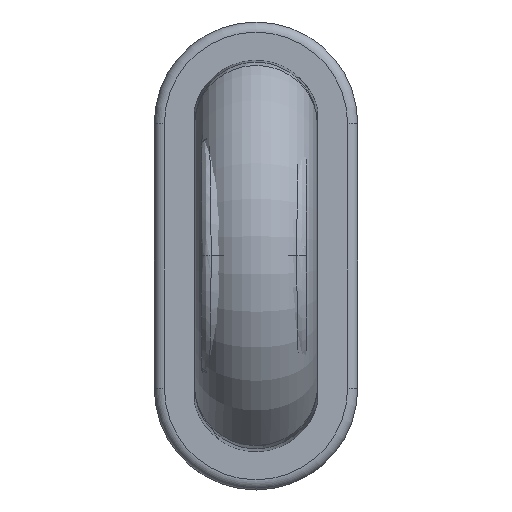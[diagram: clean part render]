
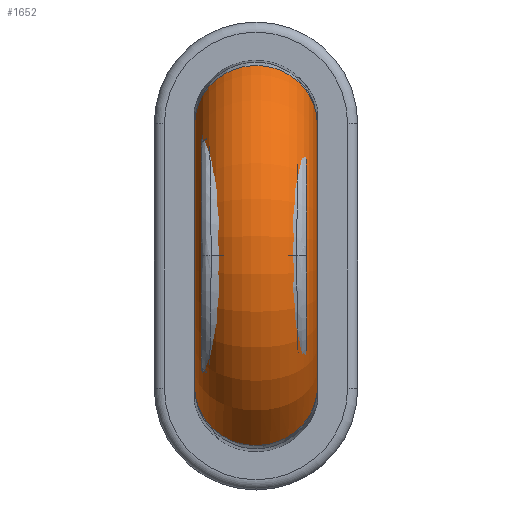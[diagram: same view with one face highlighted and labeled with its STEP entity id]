
A CAD part, top view. The second image highlights one B-rep face of the part: STEP entity #1652.
In plain terms, the highlighted toroidal (fillet/blend) face has major radius 8.2 mm and minor radius 3 mm.
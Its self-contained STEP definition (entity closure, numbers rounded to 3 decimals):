
#160=CARTESIAN_POINT('',(-23.5,13.457,149.014));
#314=CARTESIAN_POINT('',(-29.5,13.5,148.999));
#458=CARTESIAN_POINT('',(-29.5,13.457,149.014));
#459=CARTESIAN_POINT('',(-29.5,13.462,149.012));
#460=CARTESIAN_POINT('',(-29.5,13.471,149.009));
#461=CARTESIAN_POINT('',(-29.5,13.486,149.004));
#462=CARTESIAN_POINT('',(-29.5,13.495,149.001));
#463=CARTESIAN_POINT('',(-29.5,13.5,148.999));
#465=CARTESIAN_POINT('',(-29.5,20.,144.));
#466=DIRECTION('',(-1.,0.,0.));
#467=DIRECTION('',(0.,-0.793,0.61));
#468=AXIS2_PLACEMENT_3D('',#465,#466,#467);
#470=CARTESIAN_POINT('',(-29.5,26.5,148.999));
#471=CARTESIAN_POINT('',(-29.5,26.505,149.001));
#472=CARTESIAN_POINT('',(-29.5,26.514,149.004));
#473=CARTESIAN_POINT('',(-29.5,26.529,149.009));
#474=CARTESIAN_POINT('',(-29.5,26.538,149.012));
#475=CARTESIAN_POINT('',(-29.5,26.543,149.014));
#477=CARTESIAN_POINT('',(-23.5,26.543,149.014));
#478=CARTESIAN_POINT('',(-23.5,26.538,149.012));
#479=CARTESIAN_POINT('',(-23.5,26.529,149.009));
#480=CARTESIAN_POINT('',(-23.5,26.514,149.004));
#481=CARTESIAN_POINT('',(-23.5,26.505,149.001));
#482=CARTESIAN_POINT('',(-23.5,26.5,148.999));
#484=CARTESIAN_POINT('',(-23.5,20.,144.));
#485=DIRECTION('',(1.,0.,0.));
#486=DIRECTION('',(0.,0.793,0.61));
#487=AXIS2_PLACEMENT_3D('',#484,#485,#486);
#489=CARTESIAN_POINT('',(-23.5,13.5,148.999));
#490=CARTESIAN_POINT('',(-23.5,13.495,149.001));
#491=CARTESIAN_POINT('',(-23.5,13.486,149.004));
#492=CARTESIAN_POINT('',(-23.5,13.471,149.009));
#493=CARTESIAN_POINT('',(-23.5,13.462,149.012));
#494=CARTESIAN_POINT('',(-23.5,13.457,149.014));
#496=CARTESIAN_POINT('',(-29.5,13.457,149.014));
#497=CARTESIAN_POINT('',(-29.498,13.358,149.059));
#498=CARTESIAN_POINT('',(-29.484,13.162,149.149));
#499=CARTESIAN_POINT('',(-29.43,12.87,149.279));
#500=CARTESIAN_POINT('',(-29.343,12.586,149.403));
#501=CARTESIAN_POINT('',(-29.226,12.31,149.521));
#502=CARTESIAN_POINT('',(-29.078,12.048,149.631));
#503=CARTESIAN_POINT('',(-28.903,11.802,149.734));
#504=CARTESIAN_POINT('',(-28.703,11.573,149.826));
#505=CARTESIAN_POINT('',(-28.479,11.367,149.91));
#506=CARTESIAN_POINT('',(-28.235,11.185,149.983));
#507=CARTESIAN_POINT('',(-27.973,11.026,150.045));
#508=CARTESIAN_POINT('',(-27.695,10.895,150.097));
#509=CARTESIAN_POINT('',(-27.406,10.793,150.138));
#510=CARTESIAN_POINT('',(-27.11,10.718,150.165));
#511=CARTESIAN_POINT('',(-26.806,10.673,150.182));
#512=CARTESIAN_POINT('',(-26.5,10.659,150.189));
#513=CARTESIAN_POINT('',(-26.194,10.674,150.183));
#514=CARTESIAN_POINT('',(-25.89,10.718,150.165));
#515=CARTESIAN_POINT('',(-25.593,10.793,150.137));
#516=CARTESIAN_POINT('',(-25.305,10.896,150.098));
#517=CARTESIAN_POINT('',(-25.028,11.026,150.045));
#518=CARTESIAN_POINT('',(-24.765,11.184,149.983));
#519=CARTESIAN_POINT('',(-24.521,11.367,149.911));
#520=CARTESIAN_POINT('',(-24.298,11.573,149.827));
#521=CARTESIAN_POINT('',(-24.097,11.801,149.734));
#522=CARTESIAN_POINT('',(-23.922,12.048,149.632));
#523=CARTESIAN_POINT('',(-23.774,12.31,149.521));
#524=CARTESIAN_POINT('',(-23.657,12.585,149.403));
#525=CARTESIAN_POINT('',(-23.57,12.87,149.279));
#526=CARTESIAN_POINT('',(-23.516,13.162,149.149));
#527=CARTESIAN_POINT('',(-23.502,13.359,149.059));
#528=CARTESIAN_POINT('',(-23.5,13.457,149.014));
#530=CARTESIAN_POINT('',(-23.5,26.543,149.014));
#531=CARTESIAN_POINT('',(-23.502,26.642,149.059));
#532=CARTESIAN_POINT('',(-23.516,26.838,149.149));
#533=CARTESIAN_POINT('',(-23.57,27.13,149.279));
#534=CARTESIAN_POINT('',(-23.657,27.414,149.403));
#535=CARTESIAN_POINT('',(-23.774,27.69,149.521));
#536=CARTESIAN_POINT('',(-23.921,27.952,149.631));
#537=CARTESIAN_POINT('',(-24.097,28.198,149.734));
#538=CARTESIAN_POINT('',(-24.297,28.427,149.826));
#539=CARTESIAN_POINT('',(-24.521,28.633,149.91));
#540=CARTESIAN_POINT('',(-24.765,28.815,149.983));
#541=CARTESIAN_POINT('',(-25.027,28.974,150.045));
#542=CARTESIAN_POINT('',(-25.305,29.105,150.097));
#543=CARTESIAN_POINT('',(-25.594,29.207,150.138));
#544=CARTESIAN_POINT('',(-25.89,29.282,150.165));
#545=CARTESIAN_POINT('',(-26.194,29.327,150.182));
#546=CARTESIAN_POINT('',(-26.5,29.341,150.189));
#547=CARTESIAN_POINT('',(-26.806,29.326,150.183));
#548=CARTESIAN_POINT('',(-27.11,29.282,150.165));
#549=CARTESIAN_POINT('',(-27.407,29.207,150.137));
#550=CARTESIAN_POINT('',(-27.695,29.104,150.098));
#551=CARTESIAN_POINT('',(-27.972,28.974,150.045));
#552=CARTESIAN_POINT('',(-28.235,28.816,149.983));
#553=CARTESIAN_POINT('',(-28.479,28.633,149.911));
#554=CARTESIAN_POINT('',(-28.702,28.427,149.827));
#555=CARTESIAN_POINT('',(-28.903,28.199,149.734));
#556=CARTESIAN_POINT('',(-29.078,27.952,149.632));
#557=CARTESIAN_POINT('',(-29.226,27.69,149.521));
#558=CARTESIAN_POINT('',(-29.343,27.415,149.403));
#559=CARTESIAN_POINT('',(-29.43,27.13,149.279));
#560=CARTESIAN_POINT('',(-29.484,26.838,149.149));
#561=CARTESIAN_POINT('',(-29.498,26.641,149.059));
#562=CARTESIAN_POINT('',(-29.5,26.543,149.014));
#739=VERTEX_POINT('',#314);
#741=VERTEX_POINT('',#458);
#742=VERTEX_POINT('',#160);
#743=VERTEX_POINT('',#489);
#754=CARTESIAN_POINT('',(-23.5,26.5,148.999));
#755=VERTEX_POINT('',#754);
#766=CARTESIAN_POINT('',(-29.5,26.5,148.999));
#767=VERTEX_POINT('',#766);
#768=VERTEX_POINT('',#530);
#769=VERTEX_POINT('',#562);
#1635=CARTESIAN_POINT('',(-26.5,20.,144.));
#1636=DIRECTION('',(-1.,0.,0.));
#1637=DIRECTION('',(0.,-0.855,0.519));
#1638=AXIS2_PLACEMENT_3D('',#1635,#1636,#1637);
#1639=TOROIDAL_SURFACE('',#1638,8.2,3.);
#1641=ORIENTED_EDGE('',*,*,#1640,.F.);
#1642=ORIENTED_EDGE('',*,*,#1082,.T.);
#1643=ORIENTED_EDGE('',*,*,#1306,.T.);
#1644=ORIENTED_EDGE('',*,*,#1241,.T.);
#1646=ORIENTED_EDGE('',*,*,#1645,.F.);
#1647=ORIENTED_EDGE('',*,*,#1237,.T.);
#1648=ORIENTED_EDGE('',*,*,#1291,.T.);
#1649=ORIENTED_EDGE('',*,*,#1086,.T.);
#1650=EDGE_LOOP('',(#1641,#1642,#1643,#1644,#1646,#1647,#1648,#1649));
#1651=FACE_OUTER_BOUND('',#1650,.F.);
#1652=ADVANCED_FACE('',(#1651),#1639,.T.);
#464=B_SPLINE_CURVE_WITH_KNOTS('',3,(#458,#459,#460,#461,#462,#463),
.UNSPECIFIED.,.F.,.F.,(4,1,1,4),(0.,0.333,0.667,1.),
.UNSPECIFIED.);
#469=CIRCLE('',#468,8.2);
#476=B_SPLINE_CURVE_WITH_KNOTS('',3,(#470,#471,#472,#473,#474,#475),
.UNSPECIFIED.,.F.,.F.,(4,1,1,4),(0.,0.333,0.667,1.),
.UNSPECIFIED.);
#483=B_SPLINE_CURVE_WITH_KNOTS('',3,(#477,#478,#479,#480,#481,#482),
.UNSPECIFIED.,.F.,.F.,(4,1,1,4),(0.,0.333,0.667,1.),
.UNSPECIFIED.);
#488=CIRCLE('',#487,8.2);
#495=B_SPLINE_CURVE_WITH_KNOTS('',3,(#489,#490,#491,#492,#493,#494),
.UNSPECIFIED.,.F.,.F.,(4,1,1,4),(0.,0.333,0.667,1.),
.UNSPECIFIED.);
#529=B_SPLINE_CURVE_WITH_KNOTS('',3,(#496,#497,#498,#499,#500,#501,#502,#503,
#504,#505,#506,#507,#508,#509,#510,#511,#512,#513,#514,#515,#516,#517,#518,#519,
#520,#521,#522,#523,#524,#525,#526,#527,#528),.UNSPECIFIED.,.F.,.F.,(4,1,1,1,1,
1,1,1,1,1,1,1,1,1,1,1,1,1,1,1,1,1,1,1,1,1,1,1,1,1,4),(0.,0.033,
0.067,0.1,0.133,0.167,0.2,
0.233,0.267,0.3,0.333,0.367,
0.4,0.433,0.467,0.5,0.533,
0.567,0.6,0.633,0.667,0.7,
0.733,0.767,0.8,0.833,0.867,
0.9,0.933,0.967,1.),.UNSPECIFIED.);
#563=B_SPLINE_CURVE_WITH_KNOTS('',3,(#530,#531,#532,#533,#534,#535,#536,#537,
#538,#539,#540,#541,#542,#543,#544,#545,#546,#547,#548,#549,#550,#551,#552,#553,
#554,#555,#556,#557,#558,#559,#560,#561,#562),.UNSPECIFIED.,.F.,.F.,(4,1,1,1,1,
1,1,1,1,1,1,1,1,1,1,1,1,1,1,1,1,1,1,1,1,1,1,1,1,1,4),(0.,0.033,
0.067,0.1,0.133,0.167,0.2,
0.233,0.267,0.3,0.333,0.367,
0.4,0.433,0.467,0.5,0.533,
0.567,0.6,0.633,0.667,0.7,
0.733,0.767,0.8,0.833,0.867,
0.9,0.933,0.967,1.),.UNSPECIFIED.);
#1082=EDGE_CURVE('',#741,#739,#464,.T.);
#1086=EDGE_CURVE('',#743,#742,#495,.T.);
#1237=EDGE_CURVE('',#768,#755,#483,.T.);
#1241=EDGE_CURVE('',#767,#769,#476,.T.);
#1291=EDGE_CURVE('',#755,#743,#488,.T.);
#1306=EDGE_CURVE('',#739,#767,#469,.T.);
#1640=EDGE_CURVE('',#741,#742,#529,.T.);
#1645=EDGE_CURVE('',#768,#769,#563,.T.);
